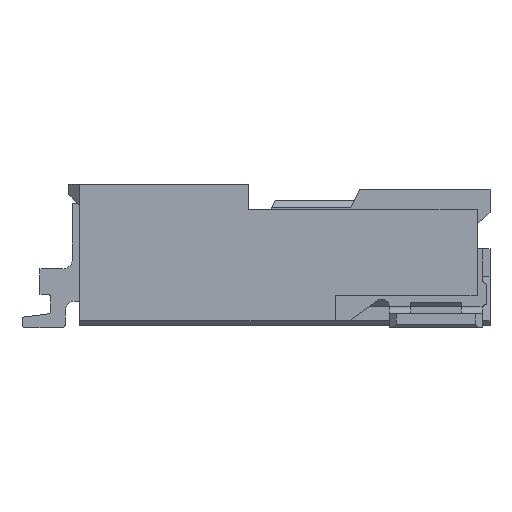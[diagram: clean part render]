
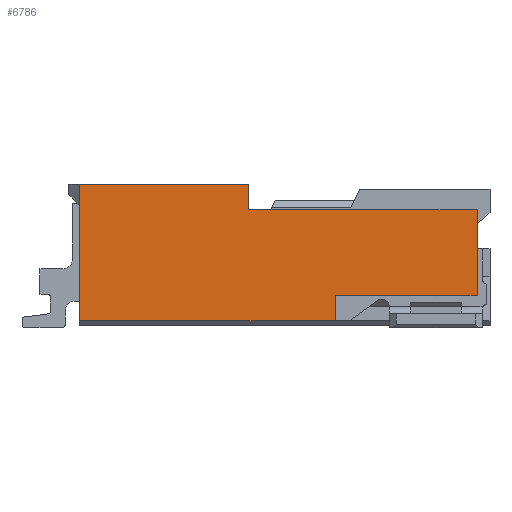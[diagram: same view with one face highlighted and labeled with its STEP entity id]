
A CAD part, front view. The second image highlights one B-rep face of the part: STEP entity #6786.
In plain terms, the highlighted planar face has unit normal (0, -1, 0).
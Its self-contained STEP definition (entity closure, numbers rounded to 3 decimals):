
#198 = DIRECTION ( 'NONE',  ( 0., -1., 0. ) ) ;
#270 = CARTESIAN_POINT ( 'NONE',  ( 2.71, -4.62, 1.62 ) ) ;
#339 = AXIS2_PLACEMENT_3D ( 'NONE', #5517, #198, #7937 ) ;
#473 = CARTESIAN_POINT ( 'NONE',  ( -2.81, -4.62, 1.82 ) ) ;
#484 = LINE ( 'NONE', #14929, #12303 ) ;
#629 = CARTESIAN_POINT ( 'NONE',  ( 0.74, -4.62, 0.42 ) ) ;
#894 = LINE ( 'NONE', #985, #5098 ) ;
#985 = CARTESIAN_POINT ( 'NONE',  ( -2.81, -4.62, 0.07 ) ) ;
#1041 = CARTESIAN_POINT ( 'NONE',  ( 0.74, -4.62, 0.07 ) ) ;
#1107 = EDGE_CURVE ( 'NONE', #13358, #1549, #2793, .T. ) ;
#1120 = CARTESIAN_POINT ( 'NONE',  ( 2.71, -4.62, 0.42 ) ) ;
#1549 = VERTEX_POINT ( 'NONE', #270 ) ;
#2310 = LINE ( 'NONE', #4801, #2324 ) ;
#2324 = VECTOR ( 'NONE', #11523, 1000. ) ;
#2460 = CARTESIAN_POINT ( 'NONE',  ( -1.01, -4.62, 0.07 ) ) ;
#2673 = VERTEX_POINT ( 'NONE', #12391 ) ;
#2793 = LINE ( 'NONE', #8023, #14932 ) ;
#3675 = ORIENTED_EDGE ( 'NONE', *, *, #6058, .T. ) ;
#3821 = ORIENTED_EDGE ( 'NONE', *, *, #9755, .F. ) ;
#3911 = EDGE_CURVE ( 'NONE', #1549, #10681, #4471, .T. ) ;
#4471 = LINE ( 'NONE', #15143, #14751 ) ;
#4792 = EDGE_CURVE ( 'NONE', #10482, #7343, #894, .T. ) ;
#4801 = CARTESIAN_POINT ( 'NONE',  ( -1.61, -4.62, 1.97 ) ) ;
#5098 = VECTOR ( 'NONE', #15613, 1000. ) ;
#5393 = VERTEX_POINT ( 'NONE', #12047 ) ;
#5517 = CARTESIAN_POINT ( 'NONE',  ( -2.76, -4.62, 0. ) ) ;
#5576 = VECTOR ( 'NONE', #15619, 1000. ) ;
#5672 = CARTESIAN_POINT ( 'NONE',  ( -2.81, -4.62, 1.67 ) ) ;
#6058 = EDGE_CURVE ( 'NONE', #16627, #13358, #12201, .T. ) ;
#6575 = EDGE_CURVE ( 'NONE', #5393, #7343, #14838, .T. ) ;
#6670 = ORIENTED_EDGE ( 'NONE', *, *, #9866, .T. ) ;
#6716 = FACE_OUTER_BOUND ( 'NONE', #14284, .T. ) ;
#6786 = ADVANCED_FACE ( 'NONE', ( #6716 ), #10617, .T. ) ;
#6928 = VECTOR ( 'NONE', #9500, 1000. ) ;
#7083 = DIRECTION ( 'NONE',  ( 0., 0., -1. ) ) ;
#7343 = VERTEX_POINT ( 'NONE', #5672 ) ;
#7697 = ORIENTED_EDGE ( 'NONE', *, *, #1107, .T. ) ;
#7937 = DIRECTION ( 'NONE',  ( -1., 0., 0. ) ) ;
#7948 = LINE ( 'NONE', #16042, #6928 ) ;
#7969 = ORIENTED_EDGE ( 'NONE', *, *, #14995, .F. ) ;
#8023 = CARTESIAN_POINT ( 'NONE',  ( 2.71, -4.62, 1.02 ) ) ;
#8517 = ORIENTED_EDGE ( 'NONE', *, *, #6575, .T. ) ;
#9282 = DIRECTION ( 'NONE',  ( 1., 0., 0. ) ) ;
#9349 = ORIENTED_EDGE ( 'NONE', *, *, #10912, .T. ) ;
#9500 = DIRECTION ( 'NONE',  ( 0., 0., 1. ) ) ;
#9755 = EDGE_CURVE ( 'NONE', #10453, #10482, #10057, .T. ) ;
#9776 = DIRECTION ( 'NONE',  ( 0., 0., -1. ) ) ;
#9866 = EDGE_CURVE ( 'NONE', #10681, #2673, #7948, .T. ) ;
#10057 = LINE ( 'NONE', #2460, #5576 ) ;
#10283 = ORIENTED_EDGE ( 'NONE', *, *, #4792, .F. ) ;
#10453 = VERTEX_POINT ( 'NONE', #1041 ) ;
#10482 = VERTEX_POINT ( 'NONE', #11614 ) ;
#10617 = PLANE ( 'NONE',  #339 ) ;
#10681 = VERTEX_POINT ( 'NONE', #11699 ) ;
#10912 = EDGE_CURVE ( 'NONE', #2673, #5393, #2310, .T. ) ;
#11296 = ORIENTED_EDGE ( 'NONE', *, *, #3911, .T. ) ;
#11523 = DIRECTION ( 'NONE',  ( -1., 0., 0. ) ) ;
#11614 = CARTESIAN_POINT ( 'NONE',  ( -2.81, -4.62, 0.07 ) ) ;
#11699 = CARTESIAN_POINT ( 'NONE',  ( -0.46, -4.62, 1.62 ) ) ;
#12047 = CARTESIAN_POINT ( 'NONE',  ( -2.81, -4.62, 1.97 ) ) ;
#12201 = LINE ( 'NONE', #13409, #15587 ) ;
#12303 = VECTOR ( 'NONE', #9776, 1000. ) ;
#12391 = CARTESIAN_POINT ( 'NONE',  ( -0.46, -4.62, 1.97 ) ) ;
#13358 = VERTEX_POINT ( 'NONE', #1120 ) ;
#13409 = CARTESIAN_POINT ( 'NONE',  ( -2.76, -4.62, 0.42 ) ) ;
#14284 = EDGE_LOOP ( 'NONE', ( #9349, #8517, #10283, #3821, #7969, #3675, #7697, #11296, #6670 ) ) ;
#14497 = DIRECTION ( 'NONE',  ( 0., 0., 1. ) ) ;
#14751 = VECTOR ( 'NONE', #15224, 1000. ) ;
#14838 = LINE ( 'NONE', #473, #15630 ) ;
#14929 = CARTESIAN_POINT ( 'NONE',  ( 0.74, -4.62, 0.245 ) ) ;
#14932 = VECTOR ( 'NONE', #14497, 1000. ) ;
#14995 = EDGE_CURVE ( 'NONE', #16627, #10453, #484, .T. ) ;
#15143 = CARTESIAN_POINT ( 'NONE',  ( 1.125, -4.62, 1.62 ) ) ;
#15224 = DIRECTION ( 'NONE',  ( -1., 0., 0. ) ) ;
#15587 = VECTOR ( 'NONE', #9282, 1000. ) ;
#15613 = DIRECTION ( 'NONE',  ( 0., 0., 1. ) ) ;
#15619 = DIRECTION ( 'NONE',  ( -1., 0., 0. ) ) ;
#15630 = VECTOR ( 'NONE', #7083, 1000. ) ;
#16042 = CARTESIAN_POINT ( 'NONE',  ( -0.46, -4.62, 1.795 ) ) ;
#16627 = VERTEX_POINT ( 'NONE', #629 ) ;
